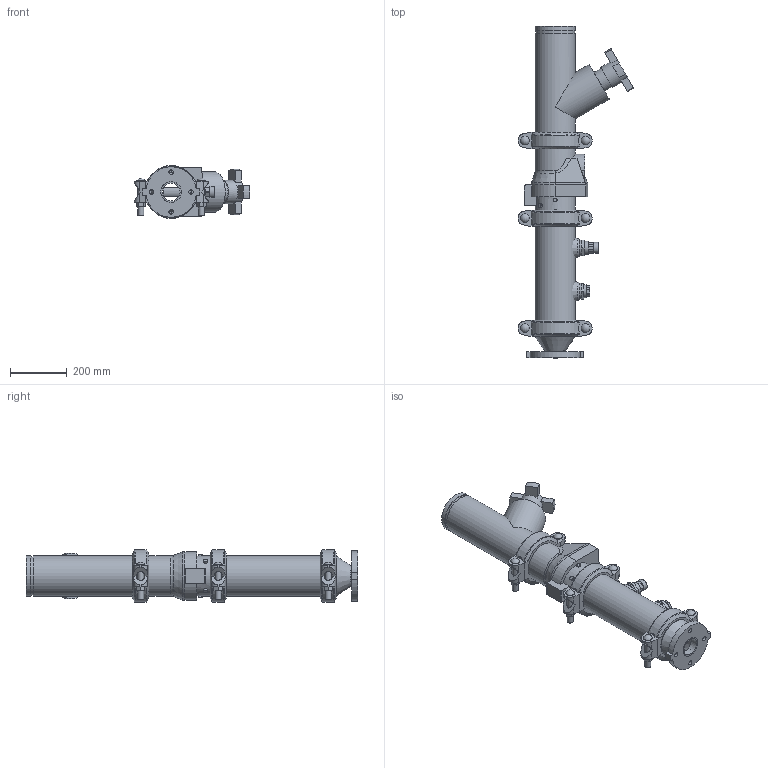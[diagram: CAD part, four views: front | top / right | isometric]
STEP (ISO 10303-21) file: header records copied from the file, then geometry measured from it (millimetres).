
FILE_DESCRIPTION(/* description */ ('VIC DVI PUMP DROP VERT S/383 (OGSxFLG) (S/924-0.75)','CAx-IF Rec.Pracs.---Representation and Presentation of Product Manufacturing Information (PMI)---4.0---2014-10-13'),/* implementation_level */ '2;1');
FILE_NAME(/* name */ 'C:\Users\Public\Documents\Victaulic.Temp\A849\Victaulic_IPS_Vertical DVI_CL 150_Series 383 (OGSxFLG)_924 (0.75)_05.0x02.5 (125x65).stp',/* time_stamp */ '2022-07-25T11:39:22+02:00',/* author */ ('Vjadhav'),/* organization */ ('Victaulic'),/* preprocessor_version */ 'ST-DEVELOPER v18',/* originating_system */ 'Autodesk Inventor 2020',/* authorisation */ '');
FILE_SCHEMA (('AP242_MANAGED_MODEL_BASED_3D_ENGINEERING_MIM_LF { 1 0 10303 442 1 1 4 }'));
Length unit declared in the file: inch
Products named in the file (9): 383_924 (0.75)-05.0x02.5; 741-02.5; 050-05.0x02.5; Pipe-05.0; 177N-05.0; 789-05.0; 779-05.0; 924-04.0x0.75; 923-04.0x0.75
Assembly tree (10 placements, depth 2):
  383_924 (0.75)-05.0x02.5
    741-02.5
    050-05.0x02.5
    177N-05.0  x3
    Pipe-05.0
    789-05.0
    779-05.0
    924-04.0x0.75
    923-04.0x0.75
Bounding box: 406.02 x 1168.4 x 185.67 mm (x, y, z)
Volume: 10357305.8 mm3; surface area: 1652361.7 mm2
Topology: 10 solids, 10 shells, 530 faces, 1427 edges, 954 vertices
Faces by surface type: plane 310, cylinder 175, cone 19, torus 18, sphere 6, bspline 2
Full cylindrical faces by diameter (mm): 13.716 x4, 15.875 x4, 21.209 x6, 26.67 x2, 30.48 x6, 38.608 x1, 45.974 x4, 55.626 x2, 62.713 x1, 69.088 x1, 73.025 x3, 75.26 x1, 82.55 x1, 128.194 x4, 128.6 x3, 137.033 x7, 141.3 x19
Entity records: 12017 total; most frequent: CARTESIAN_POINT 2447, DIRECTION 1968, ORIENTED_EDGE 1802, EDGE_CURVE 901, AXIS2_PLACEMENT_3D 749, VERTEX_POINT 610, LINE 470, VECTOR 470
